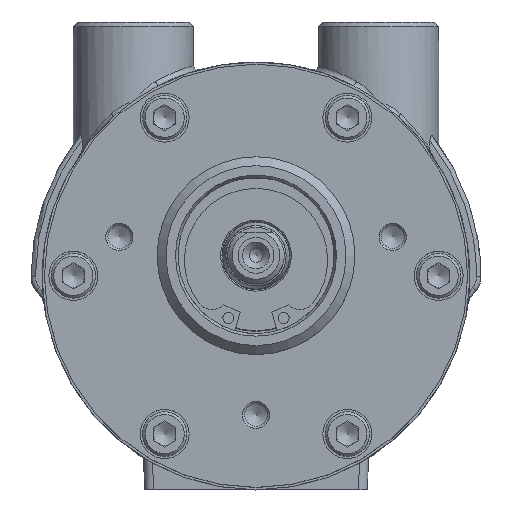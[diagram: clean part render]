
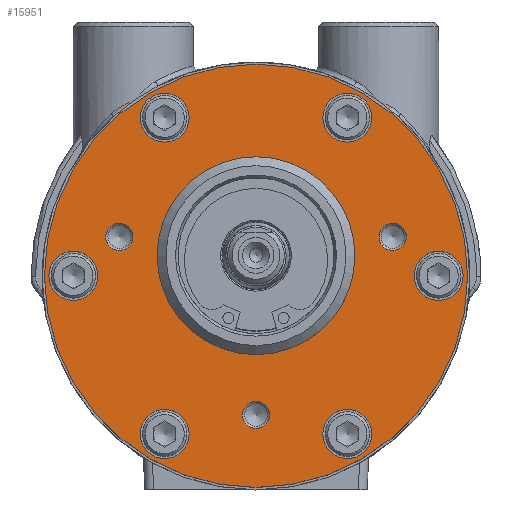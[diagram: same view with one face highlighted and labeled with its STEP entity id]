
A CAD part, top view. The second image highlights one B-rep face of the part: STEP entity #15951.
In plain terms, the highlighted planar face has unit normal (0, 0, 1).
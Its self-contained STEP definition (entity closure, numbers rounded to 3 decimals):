
#12 = VERTEX_POINT ( 'NONE', #17931 ) ;
#109 = CARTESIAN_POINT ( 'NONE',  ( -27.617, 8.75, 29.55 ) ) ;
#372 = EDGE_CURVE ( 'NONE', #12, #12, #8182, .T. ) ;
#660 = DIRECTION ( 'NONE',  ( 0., 0., 1. ) ) ;
#752 = CARTESIAN_POINT ( 'NONE',  ( -35.5, 0., 29.55 ) ) ;
#841 = DIRECTION ( 'NONE',  ( 1., 0., 0. ) ) ;
#943 = EDGE_CURVE ( 'NONE', #11937, #11937, #14851, .T. ) ;
#1366 = CARTESIAN_POINT ( 'NONE',  ( 33.723, 8.75, 29.55 ) ) ;
#1486 = FACE_OUTER_BOUND ( 'NONE', #16392, .T. ) ;
#1505 = AXIS2_PLACEMENT_3D ( 'NONE', #17939, #3154, #10377 ) ;
#1596 = FACE_BOUND ( 'NONE', #1907, .T. ) ;
#1602 = DIRECTION ( 'NONE',  ( 0., 0., 1. ) ) ;
#1707 = EDGE_CURVE ( 'NONE', #16518, #16518, #19339, .T. ) ;
#1761 = VERTEX_POINT ( 'NONE', #109 ) ;
#1907 = EDGE_LOOP ( 'NONE', ( #14776 ) ) ;
#1920 = DIRECTION ( 'NONE',  ( -1., 0., 0. ) ) ;
#2044 = VERTEX_POINT ( 'NONE', #9659 ) ;
#2640 = VERTEX_POINT ( 'NONE', #8879 ) ;
#2896 = FACE_BOUND ( 'NONE', #8106, .T. ) ;
#2955 = CARTESIAN_POINT ( 'NONE',  ( -15., 35.507, 29.55 ) ) ;
#2991 = FACE_BOUND ( 'NONE', #13249, .T. ) ;
#3017 = EDGE_CURVE ( 'NONE', #1761, #1761, #18590, .T. ) ;
#3089 = CIRCLE ( 'NONE', #4965, 47.5 ) ;
#3100 = EDGE_LOOP ( 'NONE', ( #19362 ) ) ;
#3154 = DIRECTION ( 'NONE',  ( 0., 0., 1. ) ) ;
#3348 = DIRECTION ( 'NONE',  ( 0., 0., 1. ) ) ;
#3616 = DIRECTION ( 'NONE',  ( 1., 0., 0. ) ) ;
#3629 = CARTESIAN_POINT ( 'NONE',  ( -20.5, -35.507, 29.55 ) ) ;
#3645 = ORIENTED_EDGE ( 'NONE', *, *, #14937, .F. ) ;
#3675 = DIRECTION ( 'NONE',  ( 1., 0., 0. ) ) ;
#3999 = DIRECTION ( 'NONE',  ( 0., 0., 1. ) ) ;
#4567 = PLANE ( 'NONE',  #14260 ) ;
#4677 = CIRCLE ( 'NONE', #5961, 5.5 ) ;
#4965 = AXIS2_PLACEMENT_3D ( 'NONE', #6688, #17176, #1920 ) ;
#5191 = AXIS2_PLACEMENT_3D ( 'NONE', #9117, #1602, #16743 ) ;
#5209 = CARTESIAN_POINT ( 'NONE',  ( -15., -35.507, 29.55 ) ) ;
#5410 = ORIENTED_EDGE ( 'NONE', *, *, #14789, .F. ) ;
#5844 = AXIS2_PLACEMENT_3D ( 'NONE', #15030, #3348, #9377 ) ;
#5958 = CARTESIAN_POINT ( 'NONE',  ( -20.5, 35.507, 29.55 ) ) ;
#5961 = AXIS2_PLACEMENT_3D ( 'NONE', #18829, #14141, #3675 ) ;
#6174 = CIRCLE ( 'NONE', #12144, 5.5 ) ;
#6685 = AXIS2_PLACEMENT_3D ( 'NONE', #5958, #11971, #7566 ) ;
#6688 = CARTESIAN_POINT ( 'NONE',  ( 0., 0., 29.55 ) ) ;
#6937 = DIRECTION ( 'NONE',  ( 0., 0., 1. ) ) ;
#7514 = EDGE_LOOP ( 'NONE', ( #5410 ) ) ;
#7566 = DIRECTION ( 'NONE',  ( 1., 0., 0. ) ) ;
#7697 = DIRECTION ( 'NONE',  ( 1., 0., 0. ) ) ;
#7706 = EDGE_LOOP ( 'NONE', ( #3645 ) ) ;
#7759 = CARTESIAN_POINT ( 'NONE',  ( 30.67, 8.75, 29.55 ) ) ;
#7764 = DIRECTION ( 'NONE',  ( -1., 0., 0. ) ) ;
#7816 = ORIENTED_EDGE ( 'NONE', *, *, #9882, .F. ) ;
#8084 = AXIS2_PLACEMENT_3D ( 'NONE', #16370, #17688, #8556 ) ;
#8106 = EDGE_LOOP ( 'NONE', ( #11581 ) ) ;
#8182 = CIRCLE ( 'NONE', #19252, 5.5 ) ;
#8190 = VERTEX_POINT ( 'NONE', #12713 ) ;
#8273 = CARTESIAN_POINT ( 'NONE',  ( 20.5, 35.507, 29.55 ) ) ;
#8378 = CARTESIAN_POINT ( 'NONE',  ( 22.2, 4.5, 29.55 ) ) ;
#8556 = DIRECTION ( 'NONE',  ( 1., 0., 0. ) ) ;
#8879 = CARTESIAN_POINT ( 'NONE',  ( 26., -35.507, 29.55 ) ) ;
#9110 = FACE_BOUND ( 'NONE', #13049, .T. ) ;
#9117 = CARTESIAN_POINT ( 'NONE',  ( -41., 0., 29.55 ) ) ;
#9120 = AXIS2_PLACEMENT_3D ( 'NONE', #12103, #18186, #7697 ) ;
#9377 = DIRECTION ( 'NONE',  ( 1., 0., 0. ) ) ;
#9659 = CARTESIAN_POINT ( 'NONE',  ( -47.5, 0., 29.55 ) ) ;
#9756 = VERTEX_POINT ( 'NONE', #9854 ) ;
#9779 = ORIENTED_EDGE ( 'NONE', *, *, #1707, .F. ) ;
#9854 = CARTESIAN_POINT ( 'NONE',  ( 46.5, 0., 29.55 ) ) ;
#9882 = EDGE_CURVE ( 'NONE', #9756, #9756, #4677, .T. ) ;
#10377 = DIRECTION ( 'NONE',  ( 1., 0., 0. ) ) ;
#10403 = CARTESIAN_POINT ( 'NONE',  ( -39.6, -10.6, 29.55 ) ) ;
#10507 = ORIENTED_EDGE ( 'NONE', *, *, #943, .F. ) ;
#10615 = CIRCLE ( 'NONE', #8084, 5.5 ) ;
#10693 = EDGE_LOOP ( 'NONE', ( #15273 ) ) ;
#10696 = FACE_BOUND ( 'NONE', #3100, .T. ) ;
#11414 = EDGE_CURVE ( 'NONE', #2044, #2044, #3089, .T. ) ;
#11581 = ORIENTED_EDGE ( 'NONE', *, *, #15647, .F. ) ;
#11849 = EDGE_LOOP ( 'NONE', ( #10507 ) ) ;
#11937 = VERTEX_POINT ( 'NONE', #1366 ) ;
#11971 = DIRECTION ( 'NONE',  ( 0., 0., 1. ) ) ;
#12080 = FACE_BOUND ( 'NONE', #10693, .T. ) ;
#12103 = CARTESIAN_POINT ( 'NONE',  ( 0., 4.5, 29.55 ) ) ;
#12144 = AXIS2_PLACEMENT_3D ( 'NONE', #3629, #660, #841 ) ;
#12170 = FACE_BOUND ( 'NONE', #7706, .T. ) ;
#12476 = EDGE_CURVE ( 'NONE', #14311, #14311, #18919, .T. ) ;
#12713 = CARTESIAN_POINT ( 'NONE',  ( 3.053, -31.22, 29.55 ) ) ;
#12939 = DIRECTION ( 'NONE',  ( 1., 0., 0. ) ) ;
#13049 = EDGE_LOOP ( 'NONE', ( #7816 ) ) ;
#13249 = EDGE_LOOP ( 'NONE', ( #14219 ) ) ;
#13295 = EDGE_CURVE ( 'NONE', #18983, #18983, #15290, .T. ) ;
#13565 = FACE_BOUND ( 'NONE', #11849, .T. ) ;
#13667 = FACE_BOUND ( 'NONE', #7514, .T. ) ;
#14141 = DIRECTION ( 'NONE',  ( 0., 0., 1. ) ) ;
#14219 = ORIENTED_EDGE ( 'NONE', *, *, #13295, .F. ) ;
#14251 = EDGE_LOOP ( 'NONE', ( #9779 ) ) ;
#14260 = AXIS2_PLACEMENT_3D ( 'NONE', #10403, #16456, #7764 ) ;
#14311 = VERTEX_POINT ( 'NONE', #8378 ) ;
#14352 = CIRCLE ( 'NONE', #5844, 3.053 ) ;
#14776 = ORIENTED_EDGE ( 'NONE', *, *, #12476, .F. ) ;
#14789 = EDGE_CURVE ( 'NONE', #8190, #8190, #14352, .T. ) ;
#14851 = CIRCLE ( 'NONE', #18351, 3.053 ) ;
#14937 = EDGE_CURVE ( 'NONE', #18790, #18790, #6174, .T. ) ;
#15030 = CARTESIAN_POINT ( 'NONE',  ( 0., -31.22, 29.55 ) ) ;
#15144 = FACE_BOUND ( 'NONE', #14251, .T. ) ;
#15273 = ORIENTED_EDGE ( 'NONE', *, *, #3017, .F. ) ;
#15290 = CIRCLE ( 'NONE', #5191, 5.5 ) ;
#15647 = EDGE_CURVE ( 'NONE', #2640, #2640, #10615, .T. ) ;
#15951 = ADVANCED_FACE ( 'NONE', ( #1486, #2991, #12170, #2896, #9110, #10696, #15144, #1596, #13565, #13667, #12080 ), #4567, .F. ) ;
#16370 = CARTESIAN_POINT ( 'NONE',  ( 20.5, -35.507, 29.55 ) ) ;
#16392 = EDGE_LOOP ( 'NONE', ( #19466 ) ) ;
#16456 = DIRECTION ( 'NONE',  ( 0., 0., -1. ) ) ;
#16518 = VERTEX_POINT ( 'NONE', #2955 ) ;
#16743 = DIRECTION ( 'NONE',  ( 1., 0., 0. ) ) ;
#17176 = DIRECTION ( 'NONE',  ( 0., 0., -1. ) ) ;
#17688 = DIRECTION ( 'NONE',  ( 0., 0., 1. ) ) ;
#17931 = CARTESIAN_POINT ( 'NONE',  ( 26., 35.507, 29.55 ) ) ;
#17939 = CARTESIAN_POINT ( 'NONE',  ( -30.67, 8.75, 29.55 ) ) ;
#18186 = DIRECTION ( 'NONE',  ( 0., 0., 1. ) ) ;
#18351 = AXIS2_PLACEMENT_3D ( 'NONE', #7759, #6937, #12939 ) ;
#18590 = CIRCLE ( 'NONE', #1505, 3.053 ) ;
#18790 = VERTEX_POINT ( 'NONE', #5209 ) ;
#18829 = CARTESIAN_POINT ( 'NONE',  ( 41., 0., 29.55 ) ) ;
#18919 = CIRCLE ( 'NONE', #9120, 22.2 ) ;
#18983 = VERTEX_POINT ( 'NONE', #752 ) ;
#19252 = AXIS2_PLACEMENT_3D ( 'NONE', #8273, #3999, #3616 ) ;
#19339 = CIRCLE ( 'NONE', #6685, 5.5 ) ;
#19362 = ORIENTED_EDGE ( 'NONE', *, *, #372, .F. ) ;
#19466 = ORIENTED_EDGE ( 'NONE', *, *, #11414, .F. ) ;
